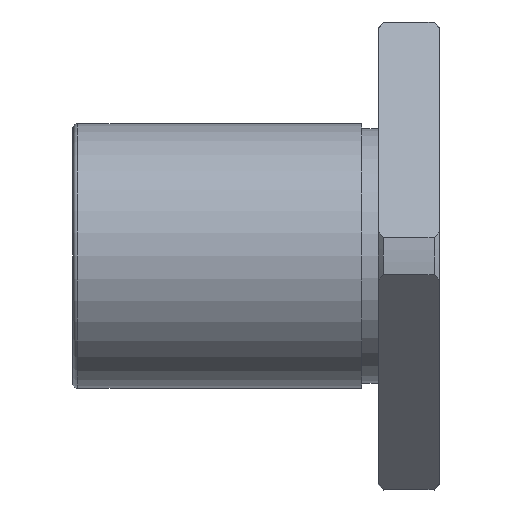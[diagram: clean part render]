
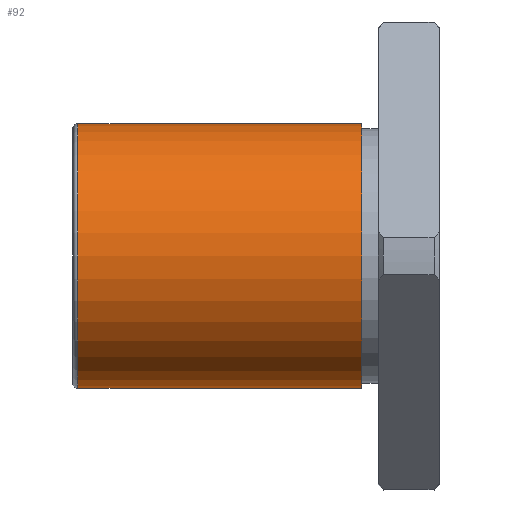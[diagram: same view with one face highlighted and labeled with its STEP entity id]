
A CAD part, front view. The second image highlights one B-rep face of the part: STEP entity #92.
In plain terms, the highlighted cylindrical face has radius 13 mm (diameter 26 mm), a full revolution.
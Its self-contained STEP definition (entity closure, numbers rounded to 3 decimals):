
#92=ADVANCED_FACE('',(#163,#164),#165,.T.);
#163=FACE_OUTER_BOUND('',#263,.T.);
#164=FACE_OUTER_BOUND('',#264,.T.);
#165=CYLINDRICAL_SURFACE('',#265,13.0);
#263=EDGE_LOOP('',(#451));
#264=EDGE_LOOP('',(#452));
#265=AXIS2_PLACEMENT_3D('',#453,#454,#455);
#451=ORIENTED_EDGE('',*,*,#625,.F.);
#452=ORIENTED_EDGE('',*,*,#606,.T.);
#453=CARTESIAN_POINT('',(-21.55,0.0,0.0));
#454=DIRECTION('',(-1.0,-0.0,0.));
#455=DIRECTION('',(0.0,1.0,0.0));
#606=EDGE_CURVE('',#717,#717,#718,.T.);
#625=EDGE_CURVE('',#746,#746,#747,.T.);
#717=VERTEX_POINT('',#1003);
#718=CIRCLE('',#1004,13.0);
#746=VERTEX_POINT('',#1032);
#747=CIRCLE('',#1033,13.0);
#1003=CARTESIAN_POINT('',(-7.6,13.0,0.0));
#1004=AXIS2_PLACEMENT_3D('',#1097,#1098,#1099);
#1032=CARTESIAN_POINT('',(-35.5,13.0,0.0));
#1033=AXIS2_PLACEMENT_3D('',#1154,#1155,#1156);
#1097=CARTESIAN_POINT('',(-7.6,0.0,0.0));
#1098=DIRECTION('',(-1.0,0.0,0.));
#1099=DIRECTION('',(0.0,1.0,0.0));
#1154=CARTESIAN_POINT('',(-35.5,0.0,0.0));
#1155=DIRECTION('',(-1.0,0.0,0.));
#1156=DIRECTION('',(0.0,1.0,0.0));
